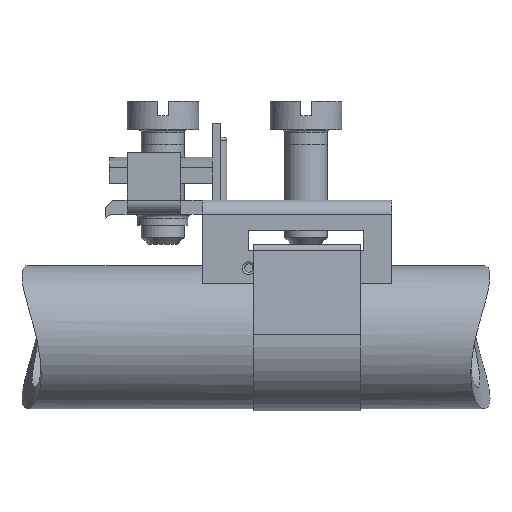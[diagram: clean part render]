
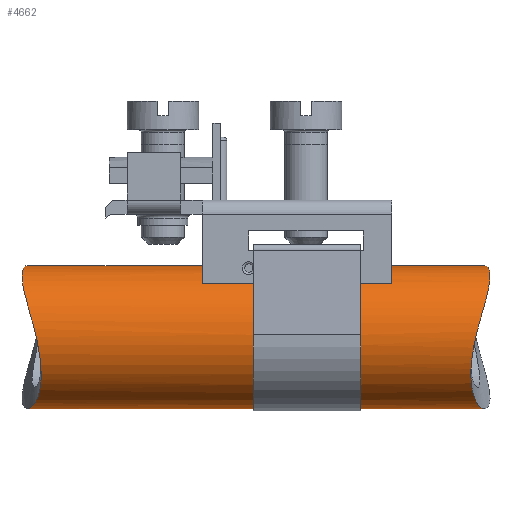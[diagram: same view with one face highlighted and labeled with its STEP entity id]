
A CAD part, front view. The second image highlights one B-rep face of the part: STEP entity #4662.
In plain terms, the highlighted cylindrical face has radius 10 mm (diameter 20 mm), a full revolution.
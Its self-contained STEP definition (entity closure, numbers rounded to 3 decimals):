
#35=CYLINDRICAL_SURFACE('',#4906,10.);
#73=B_SPLINE_CURVE_WITH_KNOTS('',3,(#6508,#6509,#6510,#6511,#6512,#6513,
#6514,#6515,#6516,#6517,#6518,#6519,#6520,#6521,#6522,#6523,#6524,#6525,
#6526,#6527,#6528),.UNSPECIFIED.,.T.,.F.,(1,1,1,1,1,1,1,1,1,1,1,1,1,1,1,
1,1,1,1,1,1,1,1,1,1),(-0.006,-0.004,-0.002,
0.,0.004,0.008,0.012,0.016,
0.02,0.024,0.028,0.032,
0.036,0.04,0.044,0.048,
0.052,0.056,0.058,0.06,
0.062,0.064,0.068,0.072,
0.075),.UNSPECIFIED.);
#74=B_SPLINE_CURVE_WITH_KNOTS('',3,(#6530,#6531,#6532,#6533,#6534,#6535,
#6536,#6537,#6538,#6539,#6540,#6541,#6542,#6543,#6544,#6545,#6546,#6547,
#6548,#6549,#6550),.UNSPECIFIED.,.T.,.F.,(1,1,1,1,1,1,1,1,1,1,1,1,1,1,1,
1,1,1,1,1,1,1,1,1,1),(-0.006,-0.004,-0.002,
0.,0.004,0.008,0.012,0.016,
0.02,0.024,0.028,0.032,
0.036,0.04,0.044,0.048,
0.052,0.056,0.058,0.06,
0.062,0.064,0.068,0.072,
0.075),.UNSPECIFIED.);
#165=CIRCLE('',#4907,10.);
#166=CIRCLE('',#4908,10.);
#167=CIRCLE('',#4909,10.);
#168=CIRCLE('',#4910,10.);
#595=ORIENTED_EDGE('',*,*,#1369,.F.);
#596=ORIENTED_EDGE('',*,*,#1370,.T.);
#597=ORIENTED_EDGE('',*,*,#1371,.T.);
#598=ORIENTED_EDGE('',*,*,#1372,.T.);
#599=ORIENTED_EDGE('',*,*,#1373,.F.);
#600=ORIENTED_EDGE('',*,*,#1374,.F.);
#601=ORIENTED_EDGE('',*,*,#1375,.T.);
#602=ORIENTED_EDGE('',*,*,#1376,.T.);
#603=ORIENTED_EDGE('',*,*,#1377,.F.);
#604=ORIENTED_EDGE('',*,*,#1378,.F.);
#1369=EDGE_CURVE('',#1787,#1788,#165,.F.);
#1370=EDGE_CURVE('',#1787,#1789,#2105,.F.);
#1371=EDGE_CURVE('',#1789,#1790,#166,.F.);
#1372=EDGE_CURVE('',#1790,#1788,#2106,.T.);
#1373=EDGE_CURVE('',#1791,#1791,#73,.T.);
#1374=EDGE_CURVE('',#1792,#1792,#74,.T.);
#1375=EDGE_CURVE('',#1793,#1794,#2107,.T.);
#1376=EDGE_CURVE('',#1794,#1795,#167,.T.);
#1377=EDGE_CURVE('',#1796,#1795,#2108,.T.);
#1378=EDGE_CURVE('',#1793,#1796,#168,.T.);
#1787=VERTEX_POINT('',#6501);
#1788=VERTEX_POINT('',#6502);
#1789=VERTEX_POINT('',#6504);
#1790=VERTEX_POINT('',#6506);
#1791=VERTEX_POINT('',#6529);
#1792=VERTEX_POINT('',#6551);
#1793=VERTEX_POINT('',#6553);
#1794=VERTEX_POINT('',#6554);
#1795=VERTEX_POINT('',#6556);
#1796=VERTEX_POINT('',#6558);
#2105=LINE('',#6503,#2411);
#2106=LINE('',#6507,#2412);
#2107=LINE('',#6552,#2413);
#2108=LINE('',#6557,#2414);
#2411=VECTOR('',#5490,1000.);
#2412=VECTOR('',#5493,1000.);
#2413=VECTOR('',#5494,1000.);
#2414=VECTOR('',#5497,1000.);
#2696=EDGE_LOOP('',(#595,#596,#597,#598));
#2697=EDGE_LOOP('',(#599));
#2698=EDGE_LOOP('',(#600));
#2699=EDGE_LOOP('',(#601,#602,#603,#604));
#2952=FACE_BOUND('',#2696,.T.);
#2953=FACE_BOUND('',#2697,.T.);
#2954=FACE_BOUND('',#2698,.T.);
#2955=FACE_BOUND('',#2699,.T.);
#4662=ADVANCED_FACE('',(#2952,#2953,#2954,#2955),#35,.T.);
#4906=AXIS2_PLACEMENT_3D('',#6499,#5486,#5487);
#4907=AXIS2_PLACEMENT_3D('',#6500,#5488,#5489);
#4908=AXIS2_PLACEMENT_3D('',#6505,#5491,#5492);
#4909=AXIS2_PLACEMENT_3D('',#6555,#5495,#5496);
#4910=AXIS2_PLACEMENT_3D('',#6559,#5498,#5499);
#5486=DIRECTION('',(-1.,0.,0.));
#5487=DIRECTION('',(0.,-0.854,-0.521));
#5488=DIRECTION('',(-1.,0.,0.));
#5489=DIRECTION('',(0.,-1.,0.));
#5490=DIRECTION('',(-1.,0.,0.));
#5491=DIRECTION('',(-1.,0.,0.));
#5492=DIRECTION('',(0.,-1.,0.));
#5493=DIRECTION('',(-1.,0.,0.));
#5494=DIRECTION('',(1.,0.,0.));
#5495=DIRECTION('',(1.,0.,0.));
#5496=DIRECTION('',(0.,0.,1.));
#5497=DIRECTION('',(1.,0.,0.));
#5498=DIRECTION('',(1.,0.,0.));
#5499=DIRECTION('',(0.,0.,1.));
#6499=CARTESIAN_POINT('',(21.83,0.,-9.911));
#6500=CARTESIAN_POINT('',(-25.,0.,-9.911));
#6501=CARTESIAN_POINT('',(-25.,-3.552,-0.562));
#6502=CARTESIAN_POINT('',(-25.,-4.492,-0.976));
#6503=CARTESIAN_POINT('',(-13.5,-3.552,-0.562));
#6504=CARTESIAN_POINT('',(-2.,-3.552,-0.562));
#6505=CARTESIAN_POINT('',(-2.,0.,-9.911));
#6506=CARTESIAN_POINT('',(-2.,-4.492,-0.976));
#6507=CARTESIAN_POINT('',(-13.5,-4.492,-0.976));
#6508=CARTESIAN_POINT('',(11.082,-9.472,-13.319));
#6509=CARTESIAN_POINT('',(10.941,-8.299,-15.773));
#6510=CARTESIAN_POINT('',(11.293,-5.994,-18.236));
#6511=CARTESIAN_POINT('',(12.294,-2.402,-19.873));
#6512=CARTESIAN_POINT('',(13.357,1.51,-20.055));
#6513=CARTESIAN_POINT('',(13.856,5.325,-18.696));
#6514=CARTESIAN_POINT('',(13.364,8.319,-15.917));
#6515=CARTESIAN_POINT('',(12.298,9.954,-12.344));
#6516=CARTESIAN_POINT('',(11.297,10.15,-8.412));
#6517=CARTESIAN_POINT('',(10.871,8.786,-4.588));
#6518=CARTESIAN_POINT('',(11.287,6.012,-1.593));
#6519=CARTESIAN_POINT('',(12.292,2.412,0.05));
#6520=CARTESIAN_POINT('',(13.356,-1.505,0.236));
#6521=CARTESIAN_POINT('',(13.856,-5.326,-1.127));
#6522=CARTESIAN_POINT('',(13.367,-8.314,-3.894));
#6523=CARTESIAN_POINT('',(12.473,-9.684,-6.894));
#6524=CARTESIAN_POINT('',(11.798,-10.052,-9.438));
#6525=CARTESIAN_POINT('',(11.366,-9.951,-11.416));
#6526=CARTESIAN_POINT('',(11.082,-9.472,-13.319));
#6527=CARTESIAN_POINT('',(10.941,-8.299,-15.773));
#6528=CARTESIAN_POINT('',(11.293,-5.994,-18.236));
#6529=CARTESIAN_POINT('',(11.012,-8.537,-15.119));
#6530=CARTESIAN_POINT('',(-49.059,-7.364,-16.774));
#6531=CARTESIAN_POINT('',(-48.918,-9.009,-14.609));
#6532=CARTESIAN_POINT('',(-49.27,-10.145,-11.433));
#6533=CARTESIAN_POINT('',(-50.271,-9.958,-7.489));
#6534=CARTESIAN_POINT('',(-51.334,-8.331,-3.928));
#6535=CARTESIAN_POINT('',(-51.833,-5.376,-1.156));
#6536=CARTESIAN_POINT('',(-51.341,-1.536,0.235));
#6537=CARTESIAN_POINT('',(-50.275,2.389,0.054));
#6538=CARTESIAN_POINT('',(-49.274,5.975,-1.57));
#6539=CARTESIAN_POINT('',(-48.848,8.752,-4.533));
#6540=CARTESIAN_POINT('',(-49.264,10.147,-8.369));
#6541=CARTESIAN_POINT('',(-50.268,9.961,-12.322));
#6542=CARTESIAN_POINT('',(-51.333,8.334,-15.891));
#6543=CARTESIAN_POINT('',(-51.833,5.374,-18.665));
#6544=CARTESIAN_POINT('',(-51.344,1.547,-20.056));
#6545=CARTESIAN_POINT('',(-50.45,-1.747,-19.902));
#6546=CARTESIAN_POINT('',(-49.775,-4.178,-19.066));
#6547=CARTESIAN_POINT('',(-49.343,-5.891,-18.071));
#6548=CARTESIAN_POINT('',(-49.059,-7.364,-16.774));
#6549=CARTESIAN_POINT('',(-48.918,-9.009,-14.609));
#6550=CARTESIAN_POINT('',(-49.27,-10.145,-11.433));
#6551=CARTESIAN_POINT('',(-48.988,-8.537,-15.119));
#6552=CARTESIAN_POINT('',(-19.358,-9.994,-9.564));
#6553=CARTESIAN_POINT('',(-19.358,-9.994,-9.564));
#6554=CARTESIAN_POINT('',(-4.358,-9.994,-9.564));
#6555=CARTESIAN_POINT('',(-4.358,0.,-9.911));
#6556=CARTESIAN_POINT('',(-4.358,9.998,-9.689));
#6557=CARTESIAN_POINT('',(-19.358,9.998,-9.689));
#6558=CARTESIAN_POINT('',(-19.358,9.998,-9.689));
#6559=CARTESIAN_POINT('',(-19.358,0.,-9.911));
